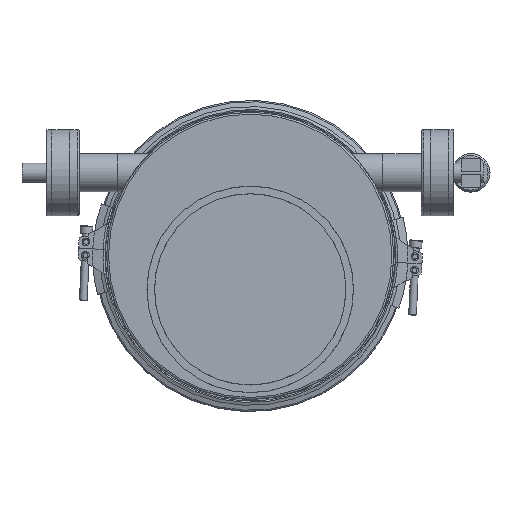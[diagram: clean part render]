
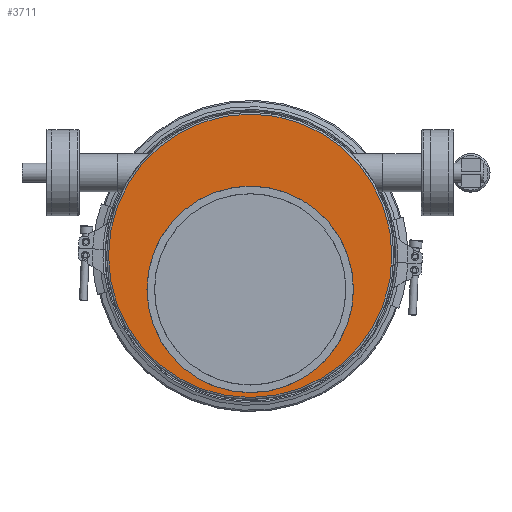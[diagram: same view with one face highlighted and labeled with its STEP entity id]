
A CAD part, top view. The second image highlights one B-rep face of the part: STEP entity #3711.
In plain terms, the highlighted planar face has unit normal (0, 0, 1).
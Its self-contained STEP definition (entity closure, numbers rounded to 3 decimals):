
#3592=CARTESIAN_POINT('',(-101.5,0.,25.));
#3593=VERTEX_POINT('',#3592);
#3594=CARTESIAN_POINT('',(0.,0.,25.));
#3595=DIRECTION('',(0.0,0.0,1.0));
#3596=DIRECTION('',(-1.0,0.0,0.0));
#3597=AXIS2_PLACEMENT_3D('',#3594,#3595,#3596);
#3598=CIRCLE('',#3597,101.5);
#3599=EDGE_CURVE('',#3593,#3593,#3598,.T.);
#3692=CARTESIAN_POINT('',(0.,35.,25.));
#3693=DIRECTION('',(0.0,0.0,1.0));
#3694=DIRECTION('',(1.0,0.0,0.0));
#3695=AXIS2_PLACEMENT_3D('',#3692,#3693,#3694);
#3696=PLANE('',#3695);
#3697=CARTESIAN_POINT('',(-147.5,35.,25.));
#3698=VERTEX_POINT('',#3697);
#3699=CARTESIAN_POINT('',(0.,35.,25.));
#3700=DIRECTION('',(0.0,0.0,-1.0));
#3701=DIRECTION('',(1.0,0.0,0.0));
#3702=AXIS2_PLACEMENT_3D('',#3699,#3700,#3701);
#3703=CIRCLE('',#3702,147.5);
#3704=EDGE_CURVE('',#3698,#3698,#3703,.T.);
#3705=ORIENTED_EDGE('',*,*,#3704,.F.);
#3706=EDGE_LOOP('',(#3705));
#3707=FACE_OUTER_BOUND('',#3706,.T.);
#3708=ORIENTED_EDGE('',*,*,#3599,.F.);
#3709=EDGE_LOOP('',(#3708));
#3710=FACE_BOUND('',#3709,.T.);
#3711=ADVANCED_FACE('',(#3707,#3710),#3696,.T.);
